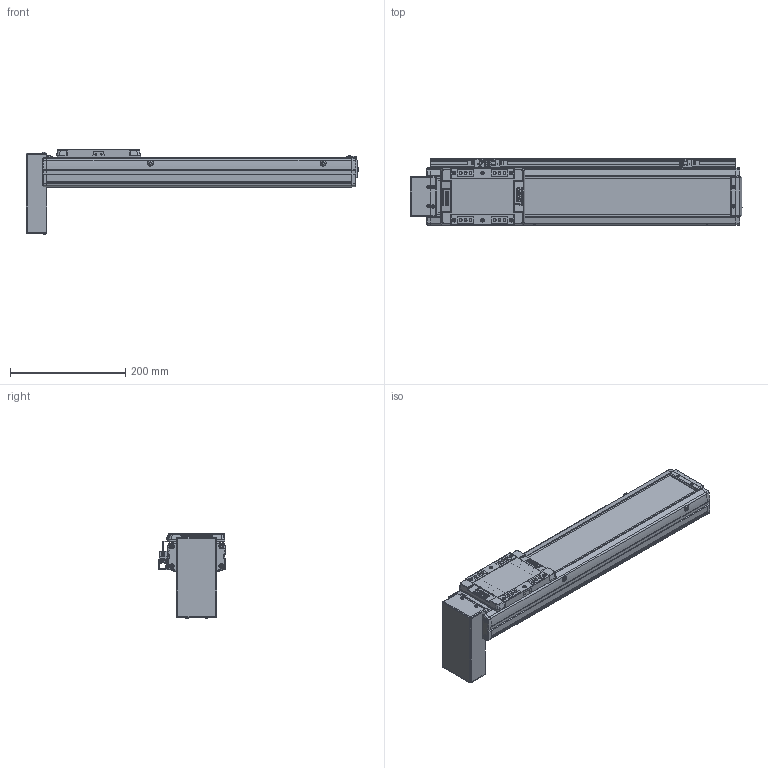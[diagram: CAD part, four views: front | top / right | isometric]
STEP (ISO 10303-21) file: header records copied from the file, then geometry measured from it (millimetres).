
FILE_DESCRIPTION(('STEP AP214'),'1');
FILE_NAME('Z:/Web/3D/SAN100/SAN100 양산용 (STEP)/SAN100ㅁㅁ-350PB+3SL.stp','2013-05-08T06:35:37',(' '),(' '),'Spatial InterOp 3D',' ',' ');
FILE_SCHEMA(('automotive_design'));
Length unit declared in the file: millimetre
Products named in the file (55): SUS COVER; SFX-SAN100; RRCV-SAN100; 스크루 : Round - M4.0 x 10.0; M3.0 x 6.0; 스크루 : Round - M3.0 x 6.0; FRBL-SAN100; SLBL-SAN100; SLCV-SAN100; 스크루 : Countersunk - M3.0 x 6.0; BASE; 스크루 : Round - M5.0 x 6.0; BTCV-SAN100; FRCV-SAN100; SGD-SAN100; SRL-16x17-380L; EE-SX674; SBK-SX674-352
Bounding box: 576.5 x 116 x 148.36 mm (x, y, z)
Volume: 1943168.5 mm3; surface area: 508632.1 mm2
Topology: 55 solids, 56 shells, 2495 faces, 6470 edges, 4193 vertices
Faces by surface type: plane 1360, cylinder 815, cone 206, sphere 72, torus 30, bspline 12
Entity records: 97970 total; most frequent: CARTESIAN_POINT 14295, DIRECTION 13691, ORIENTED_EDGE 12784, EDGE_CURVE 6392, AXIS2_PLACEMENT_3D 4850, VERTEX_POINT 4193, LINE 3991, VECTOR 3991
